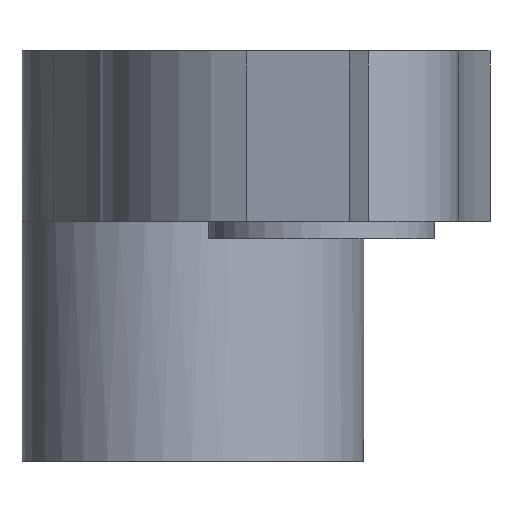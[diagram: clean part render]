
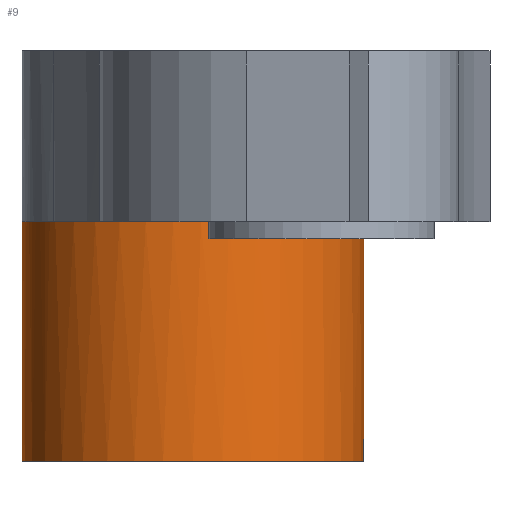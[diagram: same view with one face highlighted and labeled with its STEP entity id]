
A CAD part, front view. The second image highlights one B-rep face of the part: STEP entity #9.
In plain terms, the highlighted cylindrical face has radius 5 mm (diameter 10 mm), a partial arc.
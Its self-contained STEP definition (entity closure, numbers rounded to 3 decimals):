
#9 = ADVANCED_FACE ( 'NONE', ( #1039 ), #393, .T. ) ;
#34 = CIRCLE ( 'NONE', #964, 5. ) ;
#35 = CARTESIAN_POINT ( 'NONE',  ( -11.2, 0.528, 12.16 ) ) ;
#50 = VERTEX_POINT ( 'NONE', #810 ) ;
#109 = CARTESIAN_POINT ( 'NONE',  ( -10.505, 15.266, 12.16 ) ) ;
#115 = DIRECTION ( 'NONE',  ( 0., 0., -1. ) ) ;
#118 = DIRECTION ( 'NONE',  ( 0., 0., 1. ) ) ;
#124 = EDGE_CURVE ( 'NONE', #306, #906, #34, .T. ) ;
#140 = LINE ( 'NONE', #414, #592 ) ;
#172 = EDGE_CURVE ( 'NONE', #436, #787, #140, .T. ) ;
#181 = ORIENTED_EDGE ( 'NONE', *, *, #197, .T. ) ;
#196 = CARTESIAN_POINT ( 'NONE',  ( -20.5, 15.5, 12.16 ) ) ;
#197 = EDGE_CURVE ( 'NONE', #787, #827, #395, .T. ) ;
#244 = CARTESIAN_POINT ( 'NONE',  ( -15.5, 15.5, 12.16 ) ) ;
#277 = ORIENTED_EDGE ( 'NONE', *, *, #864, .T. ) ;
#288 = DIRECTION ( 'NONE',  ( 1., 0., 0. ) ) ;
#306 = VERTEX_POINT ( 'NONE', #341 ) ;
#324 = DIRECTION ( 'NONE',  ( -1., 0., 0. ) ) ;
#341 = CARTESIAN_POINT ( 'NONE',  ( -19.526, 12.535, 12.16 ) ) ;
#345 = AXIS2_PLACEMENT_3D ( 'NONE', #418, #1004, #501 ) ;
#356 = AXIS2_PLACEMENT_3D ( 'NONE', #766, #770, #288 ) ;
#393 = CYLINDRICAL_SURFACE ( 'NONE', #356, 5. ) ;
#395 = CIRCLE ( 'NONE', #345, 5. ) ;
#414 = CARTESIAN_POINT ( 'NONE',  ( -10.5, 15.5, 5.16 ) ) ;
#416 = DIRECTION ( 'NONE',  ( 0., 0., -1. ) ) ;
#418 = CARTESIAN_POINT ( 'NONE',  ( -15.5, 15.5, 12.16 ) ) ;
#436 = VERTEX_POINT ( 'NONE', #632 ) ;
#501 = DIRECTION ( 'NONE',  ( -1., 0., 0. ) ) ;
#518 = ORIENTED_EDGE ( 'NONE', *, *, #918, .F. ) ;
#534 = ORIENTED_EDGE ( 'NONE', *, *, #782, .F. ) ;
#588 = CARTESIAN_POINT ( 'NONE',  ( -15.5, 15.5, 12.16 ) ) ;
#591 = DIRECTION ( 'NONE',  ( -0.047, -0.999, 0. ) ) ;
#592 = VECTOR ( 'NONE', #997, 1000. ) ;
#618 = ORIENTED_EDGE ( 'NONE', *, *, #172, .T. ) ;
#628 = VECTOR ( 'NONE', #118, 1000. ) ;
#632 = CARTESIAN_POINT ( 'NONE',  ( -10.5, 15.5, 5.16 ) ) ;
#654 = AXIS2_PLACEMENT_3D ( 'NONE', #901, #416, #1001 ) ;
#668 = DIRECTION ( 'NONE',  ( -1., 0., 0. ) ) ;
#669 = CARTESIAN_POINT ( 'NONE',  ( -20.5, 15.5, 5.16 ) ) ;
#675 = ORIENTED_EDGE ( 'NONE', *, *, #124, .T. ) ;
#704 = CIRCLE ( 'NONE', #654, 5. ) ;
#751 = CARTESIAN_POINT ( 'NONE',  ( -10.506, 15.264, 12.16 ) ) ;
#756 = LINE ( 'NONE', #35, #757 ) ;
#757 = VECTOR ( 'NONE', #591, 1000. ) ;
#766 = CARTESIAN_POINT ( 'NONE',  ( -15.5, 15.5, 5.16 ) ) ;
#770 = DIRECTION ( 'NONE',  ( 0., 0., 1. ) ) ;
#782 = EDGE_CURVE ( 'NONE', #436, #50, #704, .T. ) ;
#786 = CIRCLE ( 'NONE', #889, 5. ) ;
#787 = VERTEX_POINT ( 'NONE', #994 ) ;
#806 = DIRECTION ( 'NONE',  ( 0., 0., -1. ) ) ;
#810 = CARTESIAN_POINT ( 'NONE',  ( -20.5, 15.5, 5.16 ) ) ;
#827 = VERTEX_POINT ( 'NONE', #109 ) ;
#864 = EDGE_CURVE ( 'NONE', #869, #306, #786, .T. ) ;
#869 = VERTEX_POINT ( 'NONE', #751 ) ;
#889 = AXIS2_PLACEMENT_3D ( 'NONE', #588, #115, #668 ) ;
#890 = EDGE_CURVE ( 'NONE', #827, #869, #756, .T. ) ;
#896 = ORIENTED_EDGE ( 'NONE', *, *, #890, .T. ) ;
#901 = CARTESIAN_POINT ( 'NONE',  ( -15.5, 15.5, 5.16 ) ) ;
#906 = VERTEX_POINT ( 'NONE', #196 ) ;
#918 = EDGE_CURVE ( 'NONE', #50, #906, #1024, .T. ) ;
#964 = AXIS2_PLACEMENT_3D ( 'NONE', #244, #806, #324 ) ;
#994 = CARTESIAN_POINT ( 'NONE',  ( -10.5, 15.5, 12.16 ) ) ;
#997 = DIRECTION ( 'NONE',  ( 0., 0., 1. ) ) ;
#1001 = DIRECTION ( 'NONE',  ( -1., 0., 0. ) ) ;
#1004 = DIRECTION ( 'NONE',  ( 0., 0., -1. ) ) ;
#1024 = LINE ( 'NONE', #669, #628 ) ;
#1032 = EDGE_LOOP ( 'NONE', ( #518, #534, #618, #181, #896, #277, #675 ) ) ;
#1039 = FACE_OUTER_BOUND ( 'NONE', #1032, .T. ) ;
